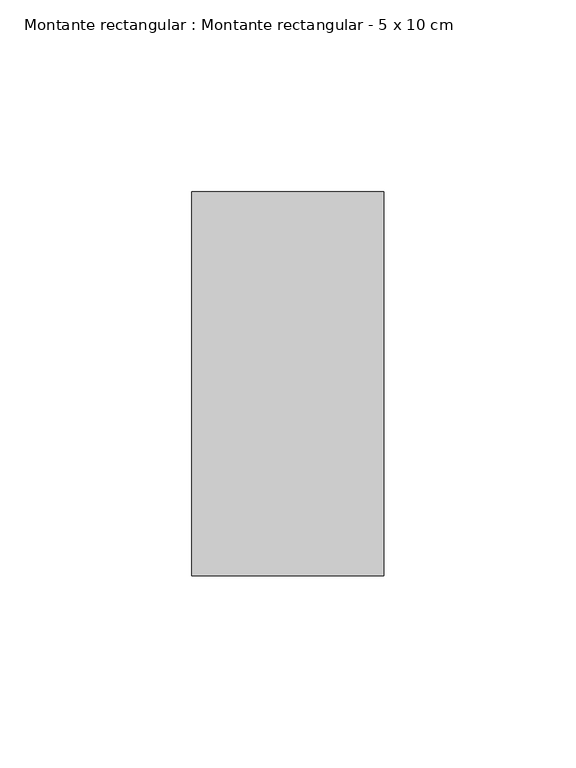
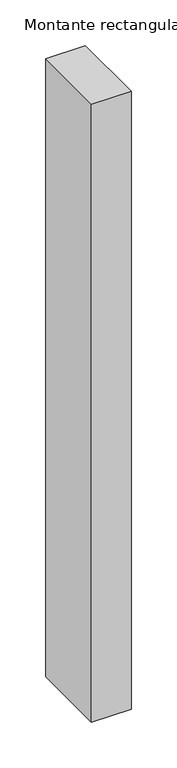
"""IFC4 building model written with IfcOpenShell, lengths in millimetres: member geometry, Montante rectangular : Montante rectangular - 5 x 10 cm."""

from ifc_helpers import new_model, si_unit, frame, origin, place, context, project, spatial, polyline, outline, extrude, source, transform, mapped, element, save


def montante_rectangular_montante_rectangular_5_x_10_cm_61fa8bb7(model_context):
    return source(origin(), model_context, "Body", "SweptSolid", [
        extrude(outline(polyline([(-50.0, -50.0), (-50.0, 50.0), (0.0, 50.0), (0.0, -50.0), (-50.0, -50.0)])), frame((0.0, 0.0, -825.0), z_axis=(0.0, 0.0, 1.0), x_axis=(1.0, 0.0, 0.0)), (0.0, 0.0, 1.0), 825.0),
    ])


if __name__ == "__main__":
    model = new_model("IFC4")
    model_context = context("Model", 3, world=origin())
    ifc_project = project(units=[si_unit("LENGTHUNIT", "METRE", prefix="MILLI")], contexts=[model_context])
    site = spatial("IfcSite", under=ifc_project)
    building = spatial("IfcBuilding", under=site)
    placement = place(None, origin())
    montante_rectangular_montante_rectangular_5_x_10_cm_shape = montante_rectangular_montante_rectangular_5_x_10_cm_61fa8bb7(model_context)
    element("IfcMember", 1, ObjectType="Montante rectangular : Montante rectangular - 5 x 10 cm", at=placement, inside=building, context=model_context, shape_type="MappedRepresentation", body=[
        mapped(montante_rectangular_montante_rectangular_5_x_10_cm_shape, transform((0.0, 0.0, 0.0), x_axis=(1.0, 0.0, 0.0), y_axis=(0.0, 1.0, 0.0), z_axis=(0.0, 0.0, 1.0))),
    ])
    save(model, "model.ifc")
